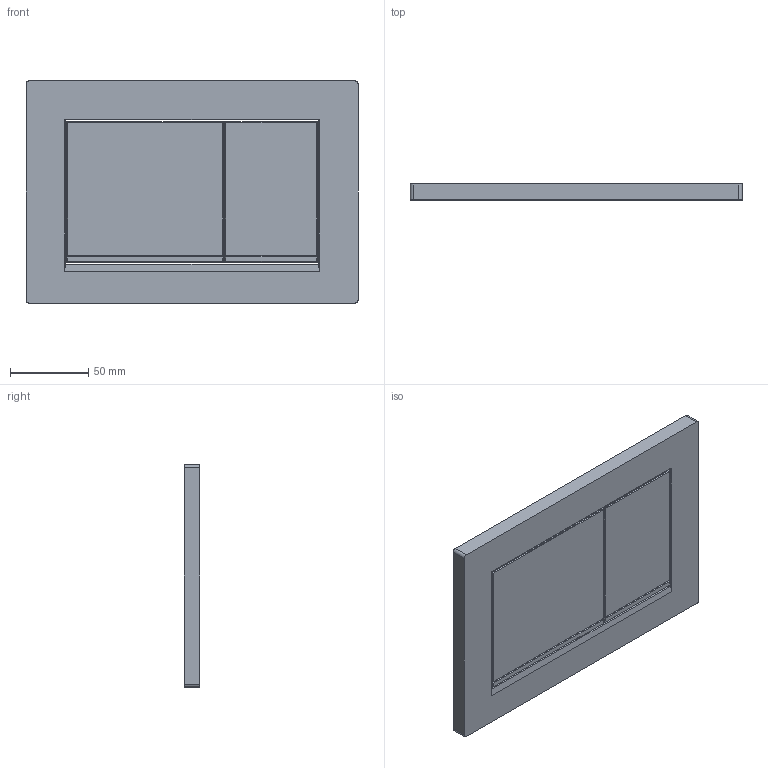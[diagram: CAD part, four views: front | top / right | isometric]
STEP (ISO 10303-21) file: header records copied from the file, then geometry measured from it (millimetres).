
FILE_DESCRIPTION(/* description */ (''),/* implementation_level */ '2;1');
FILE_NAME(/* name */ 'C:\Planerdaten\Export PLA\115.080.JQ.1\stp\115080.stp',/* time_stamp */ '2021-10-08T09:20:41+02:00',/* author */ ('JANAN'),/* organization */ (''),/* preprocessor_version */ 'ST-DEVELOPER v16.13',/* originating_system */ 'Autodesk Inventor 2018',/* authorisation */ '');
FILE_SCHEMA (('AUTOMOTIVE_DESIGN { 1 0 10303 214 3 1 1 }'));
Length unit declared in the file: millimetre
Products named in the file (1): tmpE82E.tmp
Bounding box: 212 x 10 x 142 mm (x, y, z)
Volume: 294526.8 mm3; surface area: 81223 mm2
Topology: 5 solids, 5 shells, 76 faces, 184 edges, 118 vertices
Faces by surface type: plane 57, cylinder 17, torus 2
Entity records: 2328 total; most frequent: DIRECTION 381, CARTESIAN_POINT 379, ORIENTED_EDGE 368, EDGE_CURVE 184, LINE 141, VECTOR 141, AXIS2_PLACEMENT_3D 120, VERTEX_POINT 118
